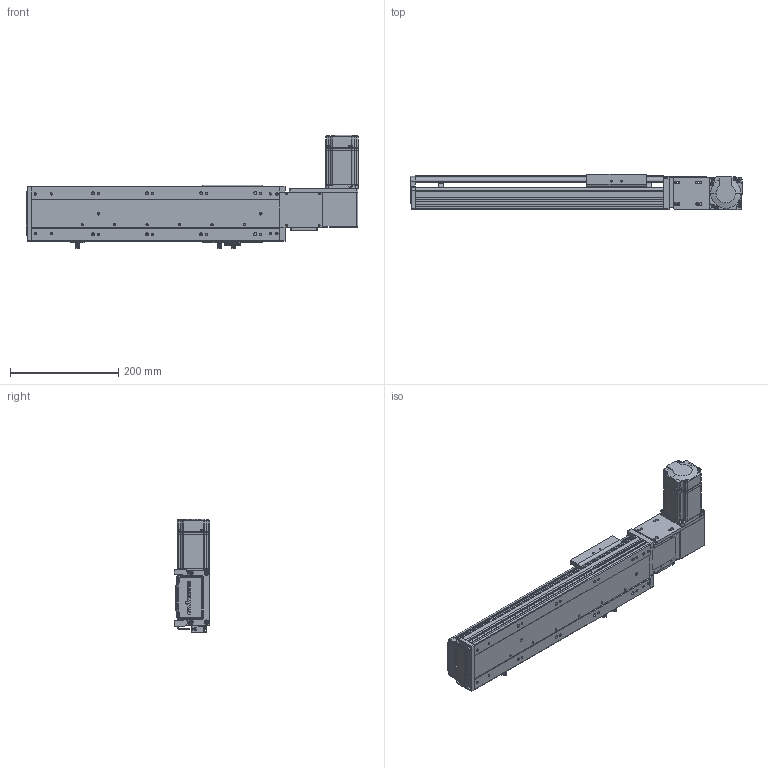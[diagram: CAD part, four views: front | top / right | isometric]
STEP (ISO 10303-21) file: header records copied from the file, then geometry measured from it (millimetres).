
FILE_DESCRIPTION (( 'STEP AP203' ), '1' );
FILE_NAME ('RY100-T-300-RK.SLDASM_250.step', '2024-04-25T08:21:33', ( '盈信电脑' ), ( '东莞市道滘镇水果街19号' ), 'SwSTEP 2.0', 'SolidWorks 2016', '' );
FILE_SCHEMA (( 'CONFIG_CONTROL_DESIGN' ));
Length unit declared in the file: millimetre
Products named in the file (15): 滅袉蝶18-10; RY100-T肮祭謫臏賑輸; RY80-T肮祭謫俋欶; RY100-T-300-RK倰第奻裔_250; RY100-T粣創揤踡裔; 覜茼ん672; RY100-T翋肮祭謫裔啣2; 1; RY100-T-300-RK.SLDASM_250; RY100-T-300-RK倰第菁釱_250; 侂狟200W萇儂; RY100-T左右折电机安装板; RY100綴裔啣; RY100-T肮祭謫翋盓傅釱; RY100俋离覜茼え
Assembly tree (18 placements, depth 3):
  RY100-T-300-RK.SLDASM_250
    RY100-T-300-RK倰第菁釱_250
    RY100-T-300-RK倰第奻裔_250
    RY100-T肮祭謫臏賑輸
    RY100綴裔啣
    覜茼ん672  x3
    RY100俋离覜茼え
    RY100-T肮祭謫翋盓傅釱
    RY100-T左右折电机安装板
    侂狟200W萇儂
      1
    RY100-T粣創揤踡裔
    滅袉蝶18-10  x2
    RY100-T翋肮祭謫裔啣2  x2
    RY80-T肮祭謫俋欶
Bounding box: 614 x 66 x 209.7 mm (x, y, z)
Volume: 1429526.5 mm3; surface area: 545489.3 mm2
Topology: 17 solids, 17 shells, 2091 faces, 5784 edges, 3756 vertices
Faces by surface type: plane 1177, cylinder 711, cone 125, bspline 78
Entity records: 65974 total; most frequent: CARTESIAN_POINT 15733, ORIENTED_EDGE 10304, DIRECTION 9808, EDGE_CURVE 5152, VECTOR 3420, LINE 3420, VERTEX_POINT 3392, AXIS2_PLACEMENT_3D 3194
